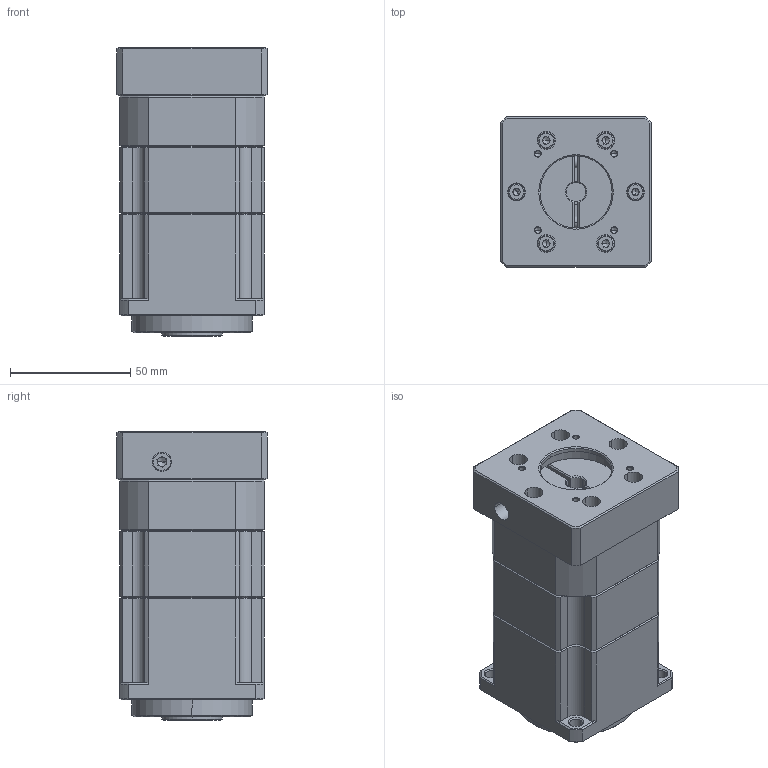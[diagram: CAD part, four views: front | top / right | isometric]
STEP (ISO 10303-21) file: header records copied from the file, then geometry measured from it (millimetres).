
FILE_DESCRIPTION (( 'STEP AP214' ), '1' );
FILE_NAME ('ZPB060-K16-L2-P1-8-30-45-M3.step', '2024-04-24T07:36:47', ( '' ), ( '' ), 'SwSTEP 2.0', 'SolidWorks 2016', '' );
FILE_SCHEMA (( 'AUTOMOTIVE_DESIGN' ));
Length unit declared in the file: millimetre
Products named in the file (1): ZPB060-K16-L2-P1-8-30-45-M3
Bounding box: 62.5 x 62.5 x 120 mm (x, y, z)
Volume: 349637.6 mm3; surface area: 78771.8 mm2
Topology: 16 solids, 17 shells, 2031 faces, 5665 edges, 3653 vertices
Faces by surface type: plane 1077, bspline 366, cylinder 262, cone 184, torus 96, sphere 46
Entity records: 102971 total; most frequent: CARTESIAN_POINT 31665, ORIENTED_EDGE 11026, DIRECTION 8644, EDGE_CURVE 5513, VERTEX_POINT 3584, VECTOR 3336, LINE 3336, AXIS2_PLACEMENT_3D 2654
